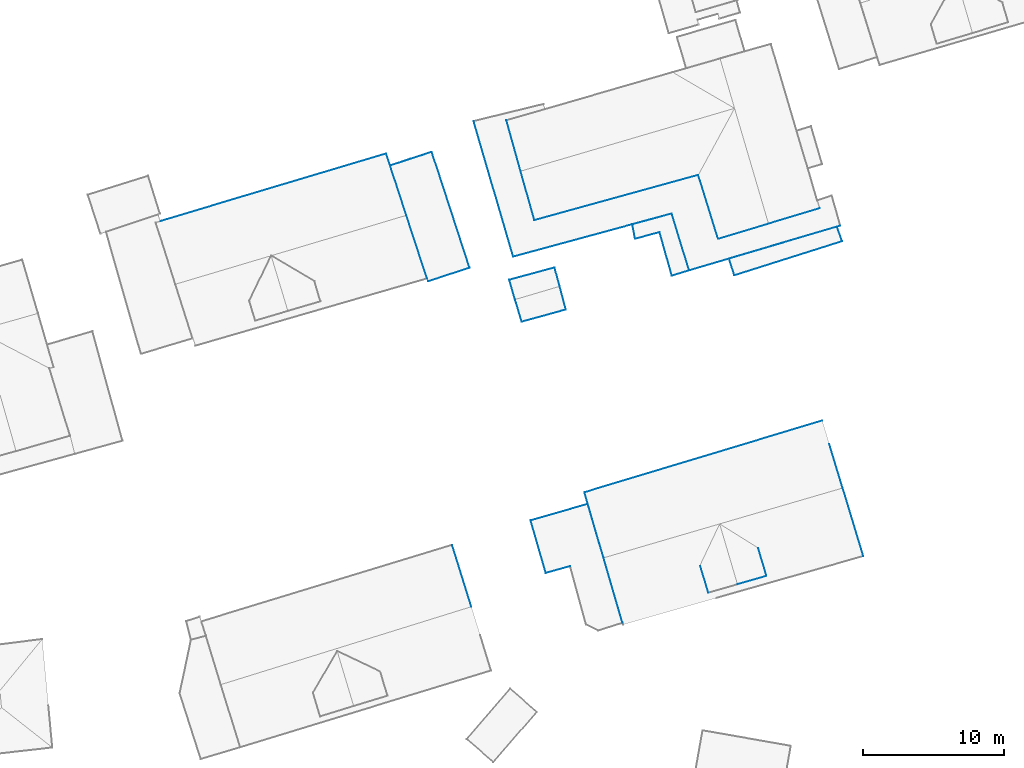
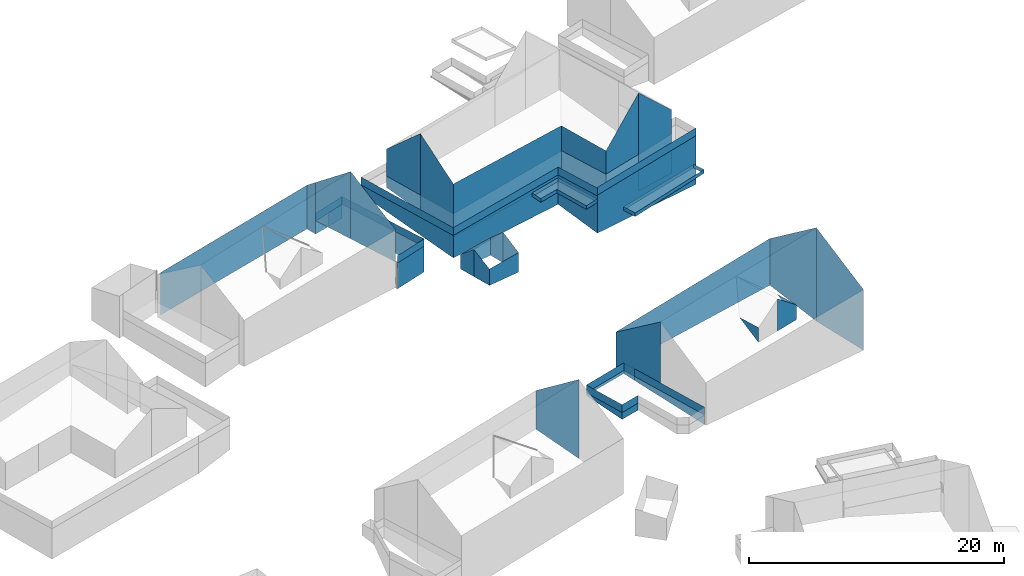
# Not in any storey, part 21 of 57: 84 walls.
"""IFC2X3 building model written with IfcOpenShell, lengths in metres."""

from ifc_helpers import new_model, entity, si_unit, converted_unit, frame, origin, place, context, subcontext, project, spatial, face_set, surface_model, element, save


model = new_model("IFC2X3")

# Units and contexts
model_context = context("Model", 3, precision=1e-05, world=origin())
body_context = subcontext(model_context, "Body", "Model", "MODEL_VIEW")
ifc_project = project(units=[converted_unit("PLANEANGLEUNIT", "DEGREE", entity("IfcRatioMeasure", 0.0174532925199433), si_unit("PLANEANGLEUNIT", "RADIAN"), dimensions=[0, 0, 0, 0, 0, 0, 0]), si_unit("AREAUNIT", "SQUARE_METRE"), si_unit("LENGTHUNIT", "METRE")], contexts=[model_context])

# Site, building
site_placement = place(None, origin())
site = spatial("IfcSite", under=ifc_project, at=site_placement, Name="_site", CompositionType="ELEMENT")
building_1_placement = place(site_placement, origin())
building_1 = spatial("IfcBuilding", under=site, at=building_1_placement, Name="_building", CompositionType="ELEMENT")

# Walls
wall_1_placement = place(building_1_placement, origin())
element("IfcWall", 1, at=wall_1_placement, inside=building_1, Name="Wall", context=body_context, shape_type="SurfaceModel", body=[
    surface_model("IfcFaceBasedSurfaceModel", [(141.642, 138.854, 118.75), (138.698, 137.892, 118.75), (138.698, 137.892, 116.282), (141.642, 138.854, 116.283)], [face_set([[[0, 1, 2, 3]]])]),
])
wall_2_placement = place(building_1_placement, origin())
element("IfcWall", 2, at=wall_2_placement, inside=building_1, Name="Wall", context=body_context, shape_type="SurfaceModel", body=[
    surface_model("IfcFaceBasedSurfaceModel", [(138.963, 147.072, 118.75), (141.642, 138.854, 118.75), (141.642, 138.854, 116.283), (138.963, 147.072, 117.374)], [face_set([[[0, 1, 2, 3]]])]),
])
wall_3_placement = place(building_1_placement, origin())
element("IfcWall", 3, at=wall_3_placement, inside=building_1, Name="Wall", context=body_context, shape_type="SurfaceModel", body=[
    surface_model("IfcFaceBasedSurfaceModel", [(137.47, 146.587, 118.75), (138.963, 147.072, 118.75), (138.963, 147.072, 117.374), (137.47, 146.587, 117.397)], [face_set([[[0, 1, 2, 3]]])]),
])
wall_4_placement = place(building_1_placement, origin())
element("IfcWall", 4, at=wall_4_placement, inside=building_1, Name="Wall", context=body_context, shape_type="SurfaceModel", body=[
    surface_model("IfcFaceBasedSurfaceModel", [(136.008, 146.11, 118.75), (137.47, 146.587, 118.75), (137.47, 146.587, 117.397), (136.008, 146.11, 117.468)], [face_set([[[0, 1, 2, 3]]])]),
])
wall_5_placement = place(building_1_placement, origin())
element("IfcWall", 5, at=wall_5_placement, inside=building_1, Name="Wall", context=body_context, shape_type="SurfaceModel", body=[
    surface_model("IfcFaceBasedSurfaceModel", [(141.642, 138.854, 118.69), (138.698, 137.892, 118.69), (138.698, 137.892, 119.44), (141.642, 138.854, 119.44)], [face_set([[[0, 1, 2, 3]]])]),
])
wall_6_placement = place(building_1_placement, origin())
element("IfcWall", 6, at=wall_6_placement, inside=building_1, Name="Wall", context=body_context, shape_type="SurfaceModel", body=[
    surface_model("IfcFaceBasedSurfaceModel", [(138.963, 147.072, 118.69), (141.642, 138.854, 118.69), (141.642, 138.854, 119.44), (138.963, 147.072, 119.44)], [face_set([[[0, 1, 2, 3]]])]),
])
wall_7_placement = place(building_1_placement, origin())
element("IfcWall", 7, at=wall_7_placement, inside=building_1, Name="Wall", context=body_context, shape_type="SurfaceModel", body=[
    surface_model("IfcFaceBasedSurfaceModel", [(136.008, 146.11, 118.69), (138.963, 147.072, 118.69), (138.963, 147.072, 119.44), (136.008, 146.11, 119.44)], [face_set([[[0, 1, 2, 3]]])]),
])
wall_8_placement = place(building_1_placement, origin())
element("IfcWall", 8, at=wall_8_placement, inside=building_1, Name="Wall", context=body_context, shape_type="SurfaceModel", body=[
    surface_model("IfcFaceBasedSurfaceModel", [(141.642, 138.854, 118.69), (138.698, 137.892, 118.69), (138.698, 137.892, 119.44), (141.642, 138.854, 119.44)], [face_set([[[0, 1, 2, 3]]])]),
])
wall_9_placement = place(building_1_placement, origin())
element("IfcWall", 9, at=wall_9_placement, inside=building_1, Name="Wall", context=body_context, shape_type="SurfaceModel", body=[
    surface_model("IfcFaceBasedSurfaceModel", [(138.963, 147.072, 118.69), (141.642, 138.854, 118.69), (141.642, 138.854, 119.44), (138.963, 147.072, 119.44)], [face_set([[[0, 1, 2, 3]]])]),
])
wall_10_placement = place(building_1_placement, origin())
element("IfcWall", 10, at=wall_10_placement, inside=building_1, Name="Wall", context=body_context, shape_type="SurfaceModel", body=[
    surface_model("IfcFaceBasedSurfaceModel", [(136.008, 146.11, 118.69), (138.963, 147.072, 118.69), (138.963, 147.072, 119.44), (136.008, 146.11, 119.44)], [face_set([[[0, 1, 2, 3]]])]),
])

# Building
building_2_placement = place(site_placement, origin())
building_2 = spatial("IfcBuilding", under=site, at=building_2_placement, Name="_building", CompositionType="ELEMENT")

# Walls
wall_11_placement = place(building_2_placement, origin())
element("IfcWall", 11, at=wall_11_placement, inside=building_2, Name="Wall", context=body_context, shape_type="SurfaceModel", body=[
    surface_model("IfcFaceBasedSurfaceModel", [(158.583, 115.793, 119.0), (157.999, 117.768, 119.0), (158.583, 115.793, 117.577)], [face_set([[[0, 1, 2]]])]),
])
wall_12_placement = place(building_2_placement, origin())
element("IfcWall", 12, at=wall_12_placement, inside=building_2, Name="Wall", context=body_context, shape_type="SurfaceModel", body=[
    surface_model("IfcFaceBasedSurfaceModel", [(162.704, 116.998, 119.01), (160.648, 116.395, 120.67), (160.648, 116.395, 117.584), (162.704, 116.998, 117.593)], [face_set([[[0, 1, 2, 3]]])]),
])
wall_13_placement = place(building_2_placement, origin())
element("IfcWall", 13, at=wall_13_placement, inside=building_2, Name="Wall", context=body_context, shape_type="SurfaceModel", body=[
    surface_model("IfcFaceBasedSurfaceModel", [(148.781, 117.684, 114.06), (147.059, 117.204, 114.06), (147.059, 117.204, 113.401), (148.781, 117.684, 113.396)], [face_set([[[0, 1, 2, 3]]])]),
])
wall_14_placement = place(building_2_placement, origin())
element("IfcWall", 14, at=wall_14_placement, inside=building_2, Name="Wall", context=body_context, shape_type="SurfaceModel", body=[
    surface_model("IfcFaceBasedSurfaceModel", [(145.975, 120.931, 114.06), (150.035, 122.097, 114.06), (150.035, 122.097, 113.776), (145.975, 120.931, 113.814)], [face_set([[[0, 1, 2, 3]]])]),
])
wall_15_placement = place(building_2_placement, origin())
element("IfcWall", 15, at=wall_15_placement, inside=building_2, Name="Wall", context=body_context, shape_type="SurfaceModel", body=[
    surface_model("IfcFaceBasedSurfaceModel", [(147.059, 117.204, 114.06), (145.975, 120.931, 114.06), (145.975, 120.931, 113.814), (147.059, 117.204, 113.401)], [face_set([[[0, 1, 2, 3]]])]),
])
wall_16_placement = place(building_2_placement, origin())
element("IfcWall", 16, at=wall_16_placement, inside=building_2, Name="Wall", context=body_context, shape_type="SurfaceModel", body=[
    surface_model("IfcFaceBasedSurfaceModel", [(150.035, 122.097, 114.06), (152.489, 113.665, 114.06), (152.489, 113.665, 113.143), (150.035, 122.097, 113.776)], [face_set([[[0, 1, 2, 3]]])]),
])
wall_17_placement = place(building_2_placement, origin())
element("IfcWall", 17, at=wall_17_placement, inside=building_2, Name="Wall", context=body_context, shape_type="SurfaceModel", body=[
    surface_model("IfcFaceBasedSurfaceModel", [(162.129, 118.973, 119.014), (162.704, 116.998, 119.01), (162.704, 116.998, 117.593), (162.129, 118.973, 119.013)], [face_set([[[0, 1, 2, 3]]])]),
])
wall_18_placement = place(building_2_placement, origin())
element("IfcWall", 18, at=wall_18_placement, inside=building_2, Name="Wall", context=body_context, shape_type="SurfaceModel", body=[
    surface_model("IfcFaceBasedSurfaceModel", [(168.113, 123.235, 120.71), (169.581, 118.397, 117.21), (169.581, 118.397, 111.403), (168.113, 123.235, 111.768)], [face_set([[[0, 1, 2, 3]]])]),
])
wall_19_placement = place(building_2_placement, origin())
element("IfcWall", 19, at=wall_19_placement, inside=building_2, Name="Wall", context=body_context, shape_type="SurfaceModel", body=[
    surface_model("IfcFaceBasedSurfaceModel", [(149.794, 122.923, 117.33), (166.664, 128.012, 117.28), (166.664, 128.012, 112.815), (149.794, 122.923, 113.829)], [face_set([[[0, 1, 2, 3]]])]),
])
wall_20_placement = place(building_2_placement, origin())
element("IfcWall", 20, at=wall_20_placement, inside=building_2, Name="Wall", context=body_context, shape_type="SurfaceModel", body=[
    surface_model("IfcFaceBasedSurfaceModel", [(166.664, 128.012, 117.28), (168.113, 123.235, 120.71), (168.113, 123.235, 111.768), (166.664, 128.012, 112.815)], [face_set([[[0, 1, 2, 3]]])]),
])
wall_21_placement = place(building_2_placement, origin())
element("IfcWall", 21, at=wall_21_placement, inside=building_2, Name="Wall", context=body_context, shape_type="SurfaceModel", body=[
    surface_model("IfcFaceBasedSurfaceModel", [(151.147, 118.279, 120.64), (149.794, 122.923, 117.33), (149.794, 122.923, 113.829), (151.147, 118.279, 113.481)], [face_set([[[0, 1, 2, 3]]])]),
])
wall_22_placement = place(building_2_placement, origin())
element("IfcWall", 22, at=wall_22_placement, inside=building_2, Name="Wall", context=body_context, shape_type="SurfaceModel", body=[
    surface_model("IfcFaceBasedSurfaceModel", [(150.035, 122.097, 114.06), (152.489, 113.665, 114.06), (152.489, 113.665, 114.81), (150.035, 122.097, 114.81)], [face_set([[[0, 1, 2, 3]]])]),
])
wall_23_placement = place(building_2_placement, origin())
element("IfcWall", 23, at=wall_23_placement, inside=building_2, Name="Wall", context=body_context, shape_type="SurfaceModel", body=[
    surface_model("IfcFaceBasedSurfaceModel", [(147.059, 117.204, 114.06), (145.975, 120.931, 114.06), (145.975, 120.931, 114.81), (147.059, 117.204, 114.81)], [face_set([[[0, 1, 2, 3]]])]),
])
wall_24_placement = place(building_2_placement, origin())
element("IfcWall", 24, at=wall_24_placement, inside=building_2, Name="Wall", context=body_context, shape_type="SurfaceModel", body=[
    surface_model("IfcFaceBasedSurfaceModel", [(148.781, 117.684, 114.06), (147.059, 117.204, 114.06), (147.059, 117.204, 114.81), (148.781, 117.684, 114.81)], [face_set([[[0, 1, 2, 3]]])]),
])
wall_25_placement = place(building_2_placement, origin())
element("IfcWall", 25, at=wall_25_placement, inside=building_2, Name="Wall", context=body_context, shape_type="SurfaceModel", body=[
    surface_model("IfcFaceBasedSurfaceModel", [(145.975, 120.931, 114.06), (150.035, 122.097, 114.06), (150.035, 122.097, 114.81), (145.975, 120.931, 114.81)], [face_set([[[0, 1, 2, 3]]])]),
])
wall_26_placement = place(building_2_placement, origin())
element("IfcWall", 26, at=wall_26_placement, inside=building_2, Name="Wall", context=body_context, shape_type="SurfaceModel", body=[
    surface_model("IfcFaceBasedSurfaceModel", [(150.035, 122.097, 114.06), (152.489, 113.665, 114.06), (152.489, 113.665, 114.81), (150.035, 122.097, 114.81)], [face_set([[[0, 1, 2, 3]]])]),
])
wall_27_placement = place(building_2_placement, origin())
element("IfcWall", 27, at=wall_27_placement, inside=building_2, Name="Wall", context=body_context, shape_type="SurfaceModel", body=[
    surface_model("IfcFaceBasedSurfaceModel", [(145.975, 120.931, 114.06), (150.035, 122.097, 114.06), (150.035, 122.097, 114.81), (145.975, 120.931, 114.81)], [face_set([[[0, 1, 2, 3]]])]),
])
wall_28_placement = place(building_2_placement, origin())
element("IfcWall", 28, at=wall_28_placement, inside=building_2, Name="Wall", context=body_context, shape_type="SurfaceModel", body=[
    surface_model("IfcFaceBasedSurfaceModel", [(147.059, 117.204, 114.06), (145.975, 120.931, 114.06), (145.975, 120.931, 114.81), (147.059, 117.204, 114.81)], [face_set([[[0, 1, 2, 3]]])]),
])
wall_29_placement = place(building_2_placement, origin())
element("IfcWall", 29, at=wall_29_placement, inside=building_2, Name="Wall", context=body_context, shape_type="SurfaceModel", body=[
    surface_model("IfcFaceBasedSurfaceModel", [(148.781, 117.684, 114.06), (147.059, 117.204, 114.06), (147.059, 117.204, 114.81), (148.781, 117.684, 114.81)], [face_set([[[0, 1, 2, 3]]])]),
])

# Building
building_3_placement = place(site_placement, origin())
building_3 = spatial("IfcBuilding", under=site, at=building_3_placement, Name="_building", CompositionType="ELEMENT")

# Wall
wall_30_placement = place(building_3_placement, origin())
element("IfcWall", 30, at=wall_30_placement, inside=building_3, Name="Wall", context=body_context, shape_type="SurfaceModel", body=[
    surface_model("IfcFaceBasedSurfaceModel", [(140.401, 119.191, 117.29), (141.77, 114.816, 120.52), (141.77, 114.816, 112.95), (140.401, 119.191, 113.598)], [face_set([[[0, 1, 2, 3]]])]),
])

# Building
building_4_placement = place(site_placement, origin())
building_4 = spatial("IfcBuilding", under=site, at=building_4_placement, Name="_building", CompositionType="ELEMENT")

# Walls
wall_31_placement = place(building_4_placement, origin())
element("IfcWall", 31, at=wall_31_placement, inside=building_4, Name="Wall", context=body_context, shape_type="SurfaceModel", body=[
    surface_model("IfcFaceBasedSurfaceModel", [(155.129, 141.38, 117.923), (153.387, 140.91, 117.923), (153.387, 140.91, 117.573), (155.129, 141.38, 117.573)], [face_set([[[0, 1, 2, 3]]])]),
])
wall_32_placement = place(building_4_placement, origin())
element("IfcWall", 32, at=wall_32_placement, inside=building_4, Name="Wall", context=body_context, shape_type="SurfaceModel", body=[
    surface_model("IfcFaceBasedSurfaceModel", [(155.998, 138.288, 117.923), (155.129, 141.38, 117.923), (155.129, 141.38, 117.573), (155.998, 138.288, 117.573)], [face_set([[[0, 1, 2, 3]]])]),
])
wall_33_placement = place(building_4_placement, origin())
element("IfcWall", 33, at=wall_33_placement, inside=building_4, Name="Wall", context=body_context, shape_type="SurfaceModel", body=[
    surface_model("IfcFaceBasedSurfaceModel", [(157.217, 138.67, 117.923), (155.998, 138.288, 117.923), (155.998, 138.288, 117.573), (157.217, 138.67, 117.573)], [face_set([[[0, 1, 2, 3]]])]),
])
wall_34_placement = place(building_4_placement, origin())
element("IfcWall", 34, at=wall_34_placement, inside=building_4, Name="Wall", context=body_context, shape_type="SurfaceModel", body=[
    surface_model("IfcFaceBasedSurfaceModel", [(155.991, 142.701, 117.923), (157.217, 138.67, 117.923), (157.217, 138.67, 117.573), (155.991, 142.701, 117.573)], [face_set([[[0, 1, 2, 3]]])]),
])
wall_35_placement = place(building_4_placement, origin())
element("IfcWall", 35, at=wall_35_placement, inside=building_4, Name="Wall", context=body_context, shape_type="SurfaceModel", body=[
    surface_model("IfcFaceBasedSurfaceModel", [(153.191, 141.936, 117.923), (155.991, 142.701, 117.923), (155.991, 142.701, 117.573), (153.191, 141.936, 117.573)], [face_set([[[0, 1, 2, 3]]])]),
])
wall_36_placement = place(building_4_placement, origin())
element("IfcWall", 36, at=wall_36_placement, inside=building_4, Name="Wall", context=body_context, shape_type="SurfaceModel", body=[
    surface_model("IfcFaceBasedSurfaceModel", [(153.387, 140.91, 117.923), (153.191, 141.936, 117.923), (153.191, 141.936, 117.573), (153.387, 140.91, 117.573)], [face_set([[[0, 1, 2, 3]]])]),
])
wall_37_placement = place(building_4_placement, origin())
element("IfcWall", 37, at=wall_37_placement, inside=building_4, Name="Wall", context=body_context, shape_type="SurfaceModel", body=[
    surface_model("IfcFaceBasedSurfaceModel", [(155.129, 141.38, 117.923), (153.387, 140.91, 117.923), (153.387, 140.91, 117.573), (155.129, 141.38, 117.573)], [face_set([[[0, 1, 2, 3]]])]),
])
wall_38_placement = place(building_4_placement, origin())
element("IfcWall", 38, at=wall_38_placement, inside=building_4, Name="Wall", context=body_context, shape_type="SurfaceModel", body=[
    surface_model("IfcFaceBasedSurfaceModel", [(155.998, 138.288, 117.923), (155.129, 141.38, 117.923), (155.129, 141.38, 117.573), (155.998, 138.288, 117.573)], [face_set([[[0, 1, 2, 3]]])]),
])
wall_39_placement = place(building_4_placement, origin())
element("IfcWall", 39, at=wall_39_placement, inside=building_4, Name="Wall", context=body_context, shape_type="SurfaceModel", body=[
    surface_model("IfcFaceBasedSurfaceModel", [(157.217, 138.67, 117.923), (155.998, 138.288, 117.923), (155.998, 138.288, 117.573), (157.217, 138.67, 117.573)], [face_set([[[0, 1, 2, 3]]])]),
])
wall_40_placement = place(building_4_placement, origin())
element("IfcWall", 40, at=wall_40_placement, inside=building_4, Name="Wall", context=body_context, shape_type="SurfaceModel", body=[
    surface_model("IfcFaceBasedSurfaceModel", [(155.991, 142.701, 117.923), (157.217, 138.67, 117.923), (157.217, 138.67, 117.573), (155.991, 142.701, 117.573)], [face_set([[[0, 1, 2, 3]]])]),
])
wall_41_placement = place(building_4_placement, origin())
element("IfcWall", 41, at=wall_41_placement, inside=building_4, Name="Wall", context=body_context, shape_type="SurfaceModel", body=[
    surface_model("IfcFaceBasedSurfaceModel", [(153.191, 141.936, 117.923), (155.991, 142.701, 117.923), (155.991, 142.701, 117.573), (153.191, 141.936, 117.573)], [face_set([[[0, 1, 2, 3]]])]),
])
wall_42_placement = place(building_4_placement, origin())
element("IfcWall", 42, at=wall_42_placement, inside=building_4, Name="Wall", context=body_context, shape_type="SurfaceModel", body=[
    surface_model("IfcFaceBasedSurfaceModel", [(144.742, 139.642, 118.198), (141.935, 149.254, 118.198), (141.935, 149.254, 117.355), (144.742, 139.642, 116.051)], [face_set([[[0, 1, 2, 3]]])]),
])
wall_43_placement = place(building_4_placement, origin())
element("IfcWall", 43, at=wall_43_placement, inside=building_4, Name="Wall", context=body_context, shape_type="SurfaceModel", body=[
    surface_model("IfcFaceBasedSurfaceModel", [(162.848, 141.98, 118.198), (166.476, 143.076, 118.249), (166.476, 143.076, 114.467), (162.848, 141.98, 114.683)], [face_set([[[0, 1, 2, 3]]])]),
])
wall_44_placement = place(building_4_placement, origin())
element("IfcWall", 44, at=wall_44_placement, inside=building_4, Name="Wall", context=body_context, shape_type="SurfaceModel", body=[
    surface_model("IfcFaceBasedSurfaceModel", [(157.866, 145.438, 118.198), (159.281, 140.902, 118.198), (159.281, 140.902, 115.013), (157.866, 145.438, 115.591)], [face_set([[[0, 1, 2, 3]]])]),
])
wall_45_placement = place(building_4_placement, origin())
element("IfcWall", 45, at=wall_45_placement, inside=building_4, Name="Wall", context=body_context, shape_type="SurfaceModel", body=[
    surface_model("IfcFaceBasedSurfaceModel", [(146.244, 142.228, 118.198), (157.866, 145.438, 118.198), (157.866, 145.438, 115.591), (146.244, 142.228, 115.951)], [face_set([[[0, 1, 2, 3]]])]),
])
wall_46_placement = place(building_4_placement, origin())
element("IfcWall", 46, at=wall_46_placement, inside=building_4, Name="Wall", context=body_context, shape_type="SurfaceModel", body=[
    surface_model("IfcFaceBasedSurfaceModel", [(145.265, 145.713, 118.198), (146.244, 142.228, 118.198), (146.244, 142.228, 115.951), (145.265, 145.713, 116.616)], [face_set([[[0, 1, 2, 3]]])]),
])
wall_47_placement = place(building_4_placement, origin())
element("IfcWall", 47, at=wall_47_placement, inside=building_4, Name="Wall", context=body_context, shape_type="SurfaceModel", body=[
    surface_model("IfcFaceBasedSurfaceModel", [(155.991, 142.701, 118.198), (144.742, 139.642, 118.198), (144.742, 139.642, 116.051), (155.991, 142.701, 115.391)], [face_set([[[0, 1, 2, 3]]])]),
])
wall_48_placement = place(building_4_placement, origin())
element("IfcWall", 48, at=wall_48_placement, inside=building_4, Name="Wall", context=body_context, shape_type="SurfaceModel", body=[
    surface_model("IfcFaceBasedSurfaceModel", [(157.217, 138.67, 118.198), (155.991, 142.701, 118.198), (155.991, 142.701, 115.391), (157.217, 138.67, 114.642)], [face_set([[[0, 1, 2, 3]]])]),
])
wall_49_placement = place(building_4_placement, origin())
element("IfcWall", 49, at=wall_49_placement, inside=building_4, Name="Wall", context=body_context, shape_type="SurfaceModel", body=[
    surface_model("IfcFaceBasedSurfaceModel", [(144.258, 149.309, 118.198), (145.265, 145.713, 118.198), (145.265, 145.713, 116.616), (144.258, 149.309, 117.124)], [face_set([[[0, 1, 2, 3]]])]),
])
wall_50_placement = place(building_4_placement, origin())
element("IfcWall", 50, at=wall_50_placement, inside=building_4, Name="Wall", context=body_context, shape_type="SurfaceModel", body=[
    surface_model("IfcFaceBasedSurfaceModel", [(159.281, 140.902, 118.198), (162.848, 141.98, 118.198), (162.848, 141.98, 114.683), (159.281, 140.902, 115.013)], [face_set([[[0, 1, 2, 3]]])]),
])
wall_51_placement = place(building_4_placement, origin())
element("IfcWall", 51, at=wall_51_placement, inside=building_4, Name="Wall", context=body_context, shape_type="SurfaceModel", body=[
    surface_model("IfcFaceBasedSurfaceModel", [(155.991, 142.701, 118.198), (157.217, 138.67, 118.198), (157.217, 138.67, 118.948), (155.991, 142.701, 118.948)], [face_set([[[0, 1, 2, 3]]])]),
])
wall_52_placement = place(building_4_placement, origin())
element("IfcWall", 52, at=wall_52_placement, inside=building_4, Name="Wall", context=body_context, shape_type="SurfaceModel", body=[
    surface_model("IfcFaceBasedSurfaceModel", [(144.742, 139.642, 118.198), (155.991, 142.701, 118.198), (155.991, 142.701, 118.948), (144.742, 139.642, 118.948)], [face_set([[[0, 1, 2, 3]]])]),
])
wall_53_placement = place(building_4_placement, origin())
element("IfcWall", 53, at=wall_53_placement, inside=building_4, Name="Wall", context=body_context, shape_type="SurfaceModel", body=[
    surface_model("IfcFaceBasedSurfaceModel", [(141.935, 149.254, 118.198), (144.742, 139.642, 118.198), (144.742, 139.642, 118.948), (141.935, 149.254, 118.948)], [face_set([[[0, 1, 2, 3]]])]),
])
wall_54_placement = place(building_4_placement, origin())
element("IfcWall", 54, at=wall_54_placement, inside=building_4, Name="Wall", context=body_context, shape_type="SurfaceModel", body=[
    surface_model("IfcFaceBasedSurfaceModel", [(155.991, 142.701, 118.198), (157.217, 138.67, 118.198), (157.217, 138.67, 118.948), (155.991, 142.701, 118.948)], [face_set([[[0, 1, 2, 3]]])]),
])
wall_55_placement = place(building_4_placement, origin())
element("IfcWall", 55, at=wall_55_placement, inside=building_4, Name="Wall", context=body_context, shape_type="SurfaceModel", body=[
    surface_model("IfcFaceBasedSurfaceModel", [(144.742, 139.642, 118.198), (155.991, 142.701, 118.198), (155.991, 142.701, 118.948), (144.742, 139.642, 118.948)], [face_set([[[0, 1, 2, 3]]])]),
])
wall_56_placement = place(building_4_placement, origin())
element("IfcWall", 56, at=wall_56_placement, inside=building_4, Name="Wall", context=body_context, shape_type="SurfaceModel", body=[
    surface_model("IfcFaceBasedSurfaceModel", [(141.935, 149.254, 118.198), (144.742, 139.642, 118.198), (144.742, 139.642, 118.948), (141.935, 149.254, 118.948)], [face_set([[[0, 1, 2, 3]]])]),
])
wall_57_placement = place(building_4_placement, origin())
element("IfcWall", 57, at=wall_57_placement, inside=building_4, Name="Wall", context=body_context, shape_type="SurfaceModel", body=[
    surface_model("IfcFaceBasedSurfaceModel", [(153.387, 140.91, 117.923), (153.191, 141.936, 117.923), (153.191, 141.936, 117.573), (153.387, 140.91, 117.573)], [face_set([[[0, 1, 2, 3]]])]),
])

# Building
building_5_placement = place(site_placement, origin())
building_5 = spatial("IfcBuilding", under=site, at=building_5_placement, Name="_building", CompositionType="ELEMENT")

# Walls
wall_58_placement = place(building_5_placement, origin())
element("IfcWall", 58, at=wall_58_placement, inside=building_5, Name="Wall", context=body_context, shape_type="SurfaceModel", body=[
    surface_model("IfcFaceBasedSurfaceModel", [(166.476, 143.076, 120.53), (162.848, 141.98, 124.06), (162.848, 141.98, 114.683), (166.476, 143.076, 114.467)], [face_set([[[0, 1, 2, 3]]])]),
])
wall_59_placement = place(building_5_placement, origin())
element("IfcWall", 59, at=wall_59_placement, inside=building_5, Name="Wall", context=body_context, shape_type="SurfaceModel", body=[
    surface_model("IfcFaceBasedSurfaceModel", [(162.848, 141.98, 124.06), (159.281, 140.902, 120.44), (159.281, 140.902, 115.013), (162.848, 141.98, 114.683)], [face_set([[[0, 1, 2, 3]]])]),
])
wall_60_placement = place(building_5_placement, origin())
element("IfcWall", 60, at=wall_60_placement, inside=building_5, Name="Wall", context=body_context, shape_type="SurfaceModel", body=[
    surface_model("IfcFaceBasedSurfaceModel", [(146.244, 142.228, 121.03), (145.265, 145.713, 124.08), (145.265, 145.713, 116.616), (146.244, 142.228, 115.951)], [face_set([[[0, 1, 2, 3]]])]),
])
wall_61_placement = place(building_5_placement, origin())
element("IfcWall", 61, at=wall_61_placement, inside=building_5, Name="Wall", context=body_context, shape_type="SurfaceModel", body=[
    surface_model("IfcFaceBasedSurfaceModel", [(157.866, 145.438, 120.59), (146.244, 142.228, 121.03), (146.244, 142.228, 115.951), (157.866, 145.438, 115.591)], [face_set([[[0, 1, 2, 3]]])]),
])
wall_62_placement = place(building_5_placement, origin())
element("IfcWall", 62, at=wall_62_placement, inside=building_5, Name="Wall", context=body_context, shape_type="SurfaceModel", body=[
    surface_model("IfcFaceBasedSurfaceModel", [(145.265, 145.713, 124.08), (144.258, 149.309, 120.76), (144.258, 149.309, 117.124), (145.265, 145.713, 116.616)], [face_set([[[0, 1, 2, 3]]])]),
])
wall_63_placement = place(building_5_placement, origin())
element("IfcWall", 63, at=wall_63_placement, inside=building_5, Name="Wall", context=body_context, shape_type="SurfaceModel", body=[
    surface_model("IfcFaceBasedSurfaceModel", [(159.281, 140.902, 120.44), (157.866, 145.438, 120.59), (157.866, 145.438, 115.591), (159.281, 140.902, 115.013)], [face_set([[[0, 1, 2, 3]]])]),
])

# Building
building_6_placement = place(site_placement, origin())
building_6 = spatial("IfcBuilding", under=site, at=building_6_placement, Name="_building", CompositionType="ELEMENT")

# Walls
wall_64_placement = place(building_6_placement, origin())
element("IfcWall", 64, at=wall_64_placement, inside=building_6, Name="Wall", context=body_context, shape_type="SurfaceModel", body=[
    surface_model("IfcFaceBasedSurfaceModel", [(147.676, 138.873, 117.46), (148.035, 137.544, 118.63), (148.035, 137.544, 115.708), (147.676, 138.873, 115.744)], [face_set([[[0, 1, 2, 3]]])]),
])
wall_65_placement = place(building_6_placement, origin())
element("IfcWall", 65, at=wall_65_placement, inside=building_6, Name="Wall", context=body_context, shape_type="SurfaceModel", body=[
    surface_model("IfcFaceBasedSurfaceModel", [(144.464, 137.997, 117.49), (147.676, 138.873, 117.46), (147.676, 138.873, 115.744), (144.464, 137.997, 116.086)], [face_set([[[0, 1, 2, 3]]])]),
])
wall_66_placement = place(building_6_placement, origin())
element("IfcWall", 66, at=wall_66_placement, inside=building_6, Name="Wall", context=body_context, shape_type="SurfaceModel", body=[
    surface_model("IfcFaceBasedSurfaceModel", [(144.871, 136.607, 118.63), (144.464, 137.997, 117.49), (144.464, 137.997, 116.086), (144.871, 136.607, 116.053)], [face_set([[[0, 1, 2, 3]]])]),
])
wall_67_placement = place(building_6_placement, origin())
element("IfcWall", 67, at=wall_67_placement, inside=building_6, Name="Wall", context=body_context, shape_type="SurfaceModel", body=[
    surface_model("IfcFaceBasedSurfaceModel", [(145.345, 135.025, 117.57), (144.871, 136.607, 118.63), (144.871, 136.607, 116.053), (145.345, 135.025, 116.005)], [face_set([[[0, 1, 2, 3]]])]),
])
wall_68_placement = place(building_6_placement, origin())
element("IfcWall", 68, at=wall_68_placement, inside=building_6, Name="Wall", context=body_context, shape_type="SurfaceModel", body=[
    surface_model("IfcFaceBasedSurfaceModel", [(148.477, 135.892, 117.53), (145.345, 135.025, 117.57), (145.345, 135.025, 116.005), (148.477, 135.892, 115.663)], [face_set([[[0, 1, 2, 3]]])]),
])
wall_69_placement = place(building_6_placement, origin())
element("IfcWall", 69, at=wall_69_placement, inside=building_6, Name="Wall", context=body_context, shape_type="SurfaceModel", body=[
    surface_model("IfcFaceBasedSurfaceModel", [(148.035, 137.544, 118.63), (148.477, 135.892, 117.53), (148.477, 135.892, 115.663), (148.035, 137.544, 115.708)], [face_set([[[0, 1, 2, 3]]])]),
])

# Building
building_7_placement = place(site_placement, origin())
building_7 = spatial("IfcBuilding", under=site, at=building_7_placement, Name="_building", CompositionType="ELEMENT")

# Walls
wall_70_placement = place(building_7_placement, origin())
element("IfcWall", 70, at=wall_70_placement, inside=building_7, Name="Wall", context=body_context, shape_type="SurfaceModel", body=[
    surface_model("IfcFaceBasedSurfaceModel", [(136.008, 146.11, 122.4), (137.156, 142.581, 125.18), (137.156, 142.581, 118.75), (136.008, 146.11, 118.75)], [face_set([[[0, 1, 2, 3]]])]),
])
wall_71_placement = place(building_7_placement, origin())
element("IfcWall", 71, at=wall_71_placement, inside=building_7, Name="Wall", context=body_context, shape_type="SurfaceModel", body=[
    surface_model("IfcFaceBasedSurfaceModel", [(137.156, 142.581, 125.18), (138.632, 138.094, 121.82), (138.632, 138.094, 118.74), (137.156, 142.581, 118.75)], [face_set([[[0, 1, 2, 3]]])]),
])
wall_72_placement = place(building_7_placement, origin())
element("IfcWall", 72, at=wall_72_placement, inside=building_7, Name="Wall", context=body_context, shape_type="SurfaceModel", body=[
    surface_model("IfcFaceBasedSurfaceModel", [(135.728, 146.957, 121.73), (136.008, 146.11, 122.4), (136.008, 146.11, 117.468), (135.728, 146.957, 117.539)], [face_set([[[0, 1, 2, 3]]])]),
])
wall_73_placement = place(building_7_placement, origin())
element("IfcWall", 73, at=wall_73_placement, inside=building_7, Name="Wall", context=body_context, shape_type="SurfaceModel", body=[
    surface_model("IfcFaceBasedSurfaceModel", [(119.717, 142.168, 121.877), (135.728, 146.957, 121.73), (135.728, 146.957, 117.539), (119.717, 142.168, 117.82)], [face_set([[[0, 1, 2, 3]]])]),
])

# Building
building_8_placement = place(site_placement, origin())
building_8 = spatial("IfcBuilding", under=site, at=building_8_placement, Name="_building", CompositionType="ELEMENT")

# Walls
wall_74_placement = place(building_8_placement, origin())
element("IfcWall", 74, at=wall_74_placement, inside=building_8, Name="Wall", context=body_context, shape_type="SurfaceModel", body=[
    surface_model("IfcFaceBasedSurfaceModel", [(168.062, 140.737, 115.67), (160.431, 138.314, 115.67), (160.431, 138.314, 115.32), (168.062, 140.737, 115.32)], [face_set([[[0, 1, 2, 3]]])]),
])
wall_75_placement = place(building_8_placement, origin())
element("IfcWall", 75, at=wall_75_placement, inside=building_8, Name="Wall", context=body_context, shape_type="SurfaceModel", body=[
    surface_model("IfcFaceBasedSurfaceModel", [(167.717, 141.776, 115.67), (168.062, 140.737, 115.67), (168.062, 140.737, 115.32), (167.717, 141.776, 115.32)], [face_set([[[0, 1, 2, 3]]])]),
])
wall_76_placement = place(building_8_placement, origin())
element("IfcWall", 76, at=wall_76_placement, inside=building_8, Name="Wall", context=body_context, shape_type="SurfaceModel", body=[
    surface_model("IfcFaceBasedSurfaceModel", [(160.059, 139.514, 115.67), (167.717, 141.776, 115.67), (167.717, 141.776, 115.32), (160.059, 139.514, 115.32)], [face_set([[[0, 1, 2, 3]]])]),
])
wall_77_placement = place(building_8_placement, origin())
element("IfcWall", 77, at=wall_77_placement, inside=building_8, Name="Wall", context=body_context, shape_type="SurfaceModel", body=[
    surface_model("IfcFaceBasedSurfaceModel", [(160.431, 138.314, 115.67), (160.059, 139.514, 115.67), (160.059, 139.514, 115.32), (160.431, 138.314, 115.32)], [face_set([[[0, 1, 2, 3]]])]),
])
wall_78_placement = place(building_8_placement, origin())
element("IfcWall", 78, at=wall_78_placement, inside=building_8, Name="Wall", context=body_context, shape_type="SurfaceModel", body=[
    surface_model("IfcFaceBasedSurfaceModel", [(168.062, 140.737, 115.67), (160.431, 138.314, 115.67), (160.431, 138.314, 115.32), (168.062, 140.737, 115.32)], [face_set([[[0, 1, 2, 3]]])]),
])
wall_79_placement = place(building_8_placement, origin())
element("IfcWall", 79, at=wall_79_placement, inside=building_8, Name="Wall", context=body_context, shape_type="SurfaceModel", body=[
    surface_model("IfcFaceBasedSurfaceModel", [(167.717, 141.776, 115.67), (168.062, 140.737, 115.67), (168.062, 140.737, 115.32), (167.717, 141.776, 115.32)], [face_set([[[0, 1, 2, 3]]])]),
])
wall_80_placement = place(building_8_placement, origin())
element("IfcWall", 80, at=wall_80_placement, inside=building_8, Name="Wall", context=body_context, shape_type="SurfaceModel", body=[
    surface_model("IfcFaceBasedSurfaceModel", [(160.059, 139.514, 115.67), (167.717, 141.776, 115.67), (167.717, 141.776, 115.32), (160.059, 139.514, 115.32)], [face_set([[[0, 1, 2, 3]]])]),
])
wall_81_placement = place(building_8_placement, origin())
element("IfcWall", 81, at=wall_81_placement, inside=building_8, Name="Wall", context=body_context, shape_type="SurfaceModel", body=[
    surface_model("IfcFaceBasedSurfaceModel", [(167.948, 141.84, 118.275), (157.217, 138.67, 118.275), (157.217, 138.67, 114.642), (167.948, 141.84, 113.633)], [face_set([[[0, 1, 2, 3]]])]),
])
for number, where, name in (
    (82, (0.0, 0.0, 0.0), "Wall"),
    (83, (0.0, 0.0, 0.0), "Wall"),
):
    element("IfcWall", number, at=place(building_8_placement, frame(where)), inside=building_8, Name=name, context=body_context, shape_type="SurfaceModel", body=[
        surface_model("IfcFaceBasedSurfaceModel", [(157.217, 138.67, 118.275), (167.948, 141.84, 118.275), (167.948, 141.84, 119.025), (157.217, 138.67, 119.025)], [face_set([[[0, 1, 2, 3]]])]),
    ])
wall_82_placement = place(building_8_placement, origin())
element("IfcWall", 84, at=wall_82_placement, inside=building_8, Name="Wall", context=body_context, shape_type="SurfaceModel", body=[
    surface_model("IfcFaceBasedSurfaceModel", [(160.431, 138.314, 115.67), (160.059, 139.514, 115.67), (160.059, 139.514, 115.32), (160.431, 138.314, 115.32)], [face_set([[[0, 1, 2, 3]]])]),
])

save(model, "model.ifc")
